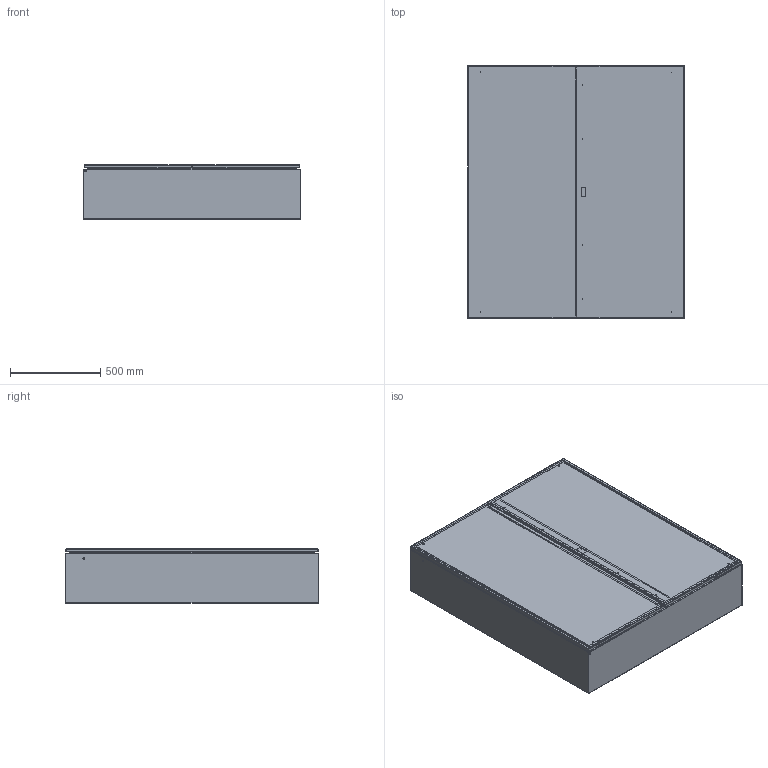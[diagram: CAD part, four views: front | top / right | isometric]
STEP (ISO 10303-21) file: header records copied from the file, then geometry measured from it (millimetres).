
FILE_DESCRIPTION (( 'STEP AP203' ), '1' );
FILE_NAME ('2162010020_semplificato.STEP', '2021-01-08T12:47:23', ( '' ), ( '' ), 'SwSTEP 2.0', 'SolidWorks 2019', '' );
FILE_SCHEMA (( 'CONFIG_CONTROL_DESIGN' ));
Length unit declared in the file: millimetre
Products named in the file (24): 2162010020_04008030201_1200x1400; 2162010020_07008030301_1200x1400; 2162010020_00008030004_23; 2162010020_05008030301_1200x1400; 2162010020_00008010102_01; 2162010020_04008030301_1200x1400; 2162010020_ECOR_Gomma_porta_CB_1200x1400; 2162010020_Dado esagonale flangiato zigrinato DIN6923_Dado  M8 flangiato-zigrinato DIN6923; 2162010020_03008030301_1200x1400; 2162010020_07008040101_1200x1400; 2162010020_05008030201_1200x1400; 2162010020_07008030201_1200x1400; 2162010020_semplificato; 2162010020_05008010504_1200x1400x0300; 2162010020_04008010504_1200x1400x0300; 2162010020_PERNO FILETTATO A SALDARE DIN32501_M6x15_ramato; 2162010020_03008010508_06; 2162010020_03008030201_1200x1400; 2162010020_03008010507_06; 2162010020_06008030301_1200x1400; 2162010020_ECOR_Gomma_porta_IB_1200x1400; 2162010020_06008030201_1200x1400; 2162010020_03008010506_1200x1400x0300; 2162010020_03008040101_1200x1400
Assembly tree (37 placements, depth 6):
  2162010020_semplificato
    2162010020_05008010504_1200x1400x0300
      2162010020_04008010504_1200x1400x0300
        2162010020_03008010506_1200x1400x0300
        2162010020_03008010507_06
        2162010020_03008010508_06
        2162010020_PERNO FILETTATO A SALDARE DIN32501_M6x15_ramato  x2
    2162010020_07008040101_1200x1400
      2162010020_03008040101_1200x1400
      2162010020_Dado esagonale flangiato zigrinato DIN6923_Dado  M8 flangiato-zigrinato DIN6923  x4
    2162010020_07008030201_1200x1400
      2162010020_06008030201_1200x1400
        2162010020_05008030201_1200x1400
          2162010020_04008030201_1200x1400
            2162010020_03008030201_1200x1400
            2162010020_00008010102_01  x6
            2162010020_00008030004_23  x2
        2162010020_ECOR_Gomma_porta_IB_1200x1400
    2162010020_07008030301_1200x1400
      2162010020_06008030301_1200x1400
        2162010020_05008030301_1200x1400
          2162010020_04008030301_1200x1400
            2162010020_03008030301_1200x1400
            2162010020_00008010102_01  x2
            2162010020_00008030004_23  x2
        2162010020_ECOR_Gomma_porta_CB_1200x1400
Bounding box: 1200 x 1400 x 300 mm (x, y, z)
Volume: 11079330.8 mm3; surface area: 13999557.1 mm2
Topology: 82 solids, 82 shells, 1652 faces, 3921 edges, 2440 vertices
Faces by surface type: cylinder 819, plane 570, bspline 108, cone 88, torus 67
Entity records: 30793 total; most frequent: CARTESIAN_POINT 6653, DIRECTION 4491, ORIENTED_EDGE 4294, EDGE_CURVE 2147, AXIS2_PLACEMENT_3D 1700, VERTEX_POINT 1320, EDGE_LOOP 1121, LINE 1091
